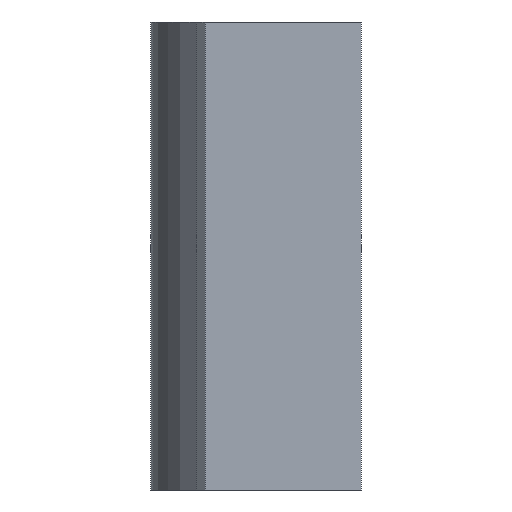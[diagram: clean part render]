
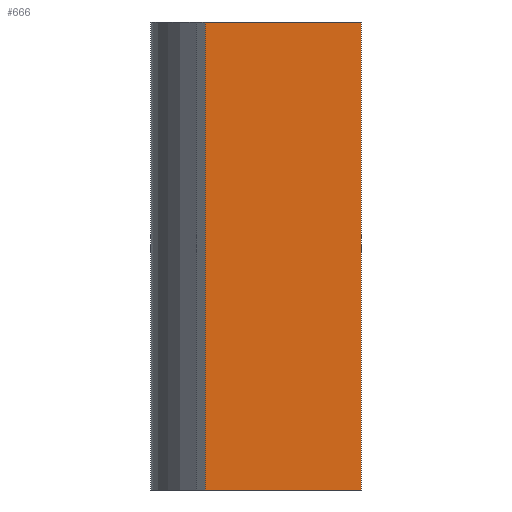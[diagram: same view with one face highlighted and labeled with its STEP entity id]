
A CAD part, left-side view. The second image highlights one B-rep face of the part: STEP entity #666.
In plain terms, the highlighted planar face has unit normal (-1, 0, 0).
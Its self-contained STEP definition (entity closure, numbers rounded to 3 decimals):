
#41 = CARTESIAN_POINT ( 'NONE',  ( -3.15, -0.35, 1.5 ) ) ;
#42 = CARTESIAN_POINT ( 'NONE',  ( -3.15, -0.35, 1.5 ) ) ;
#69 = EDGE_CURVE ( 'NONE', #620, #155, #737, .T. ) ;
#80 = VECTOR ( 'NONE', #298, 1000. ) ;
#102 = ORIENTED_EDGE ( 'NONE', *, *, #69, .T. ) ;
#113 = FACE_OUTER_BOUND ( 'NONE', #214, .T. ) ;
#132 = VERTEX_POINT ( 'NONE', #596 ) ;
#138 = DIRECTION ( 'NONE',  ( 0., 0., -1. ) ) ;
#155 = VERTEX_POINT ( 'NONE', #819 ) ;
#192 = DIRECTION ( 'NONE',  ( -1., 0., 0. ) ) ;
#204 = VERTEX_POINT ( 'NONE', #355 ) ;
#208 = CARTESIAN_POINT ( 'NONE',  ( -3.15, 0.65, 1.5 ) ) ;
#214 = EDGE_LOOP ( 'NONE', ( #435, #933, #102, #589 ) ) ;
#222 = VECTOR ( 'NONE', #397, 1000. ) ;
#245 = CARTESIAN_POINT ( 'NONE',  ( -3.15, -0.35, 1.5 ) ) ;
#282 = EDGE_CURVE ( 'NONE', #155, #132, #866, .T. ) ;
#298 = DIRECTION ( 'NONE',  ( 0., 1., 0. ) ) ;
#355 = CARTESIAN_POINT ( 'NONE',  ( -3.15, -0.35, -1.5 ) ) ;
#388 = LINE ( 'NONE', #821, #222 ) ;
#397 = DIRECTION ( 'NONE',  ( 0., 1., 0. ) ) ;
#435 = ORIENTED_EDGE ( 'NONE', *, *, #568, .F. ) ;
#453 = AXIS2_PLACEMENT_3D ( 'NONE', #42, #192, #848 ) ;
#527 = CARTESIAN_POINT ( 'NONE',  ( -3.15, -0.35, 1.5 ) ) ;
#568 = EDGE_CURVE ( 'NONE', #204, #132, #388, .T. ) ;
#589 = ORIENTED_EDGE ( 'NONE', *, *, #282, .T. ) ;
#596 = CARTESIAN_POINT ( 'NONE',  ( -3.15, 0.65, -1.5 ) ) ;
#620 = VERTEX_POINT ( 'NONE', #527 ) ;
#666 = ADVANCED_FACE ( 'NONE', ( #113 ), #698, .T. ) ;
#698 = PLANE ( 'NONE',  #453 ) ;
#710 = LINE ( 'NONE', #41, #795 ) ;
#737 = LINE ( 'NONE', #245, #80 ) ;
#755 = DIRECTION ( 'NONE',  ( 0., 0., -1. ) ) ;
#795 = VECTOR ( 'NONE', #755, 1000. ) ;
#819 = CARTESIAN_POINT ( 'NONE',  ( -3.15, 0.65, 1.5 ) ) ;
#821 = CARTESIAN_POINT ( 'NONE',  ( -3.15, -0.35, -1.5 ) ) ;
#848 = DIRECTION ( 'NONE',  ( 0., 0., 1. ) ) ;
#866 = LINE ( 'NONE', #208, #895 ) ;
#895 = VECTOR ( 'NONE', #138, 1000. ) ;
#906 = EDGE_CURVE ( 'NONE', #620, #204, #710, .T. ) ;
#933 = ORIENTED_EDGE ( 'NONE', *, *, #906, .F. ) ;
